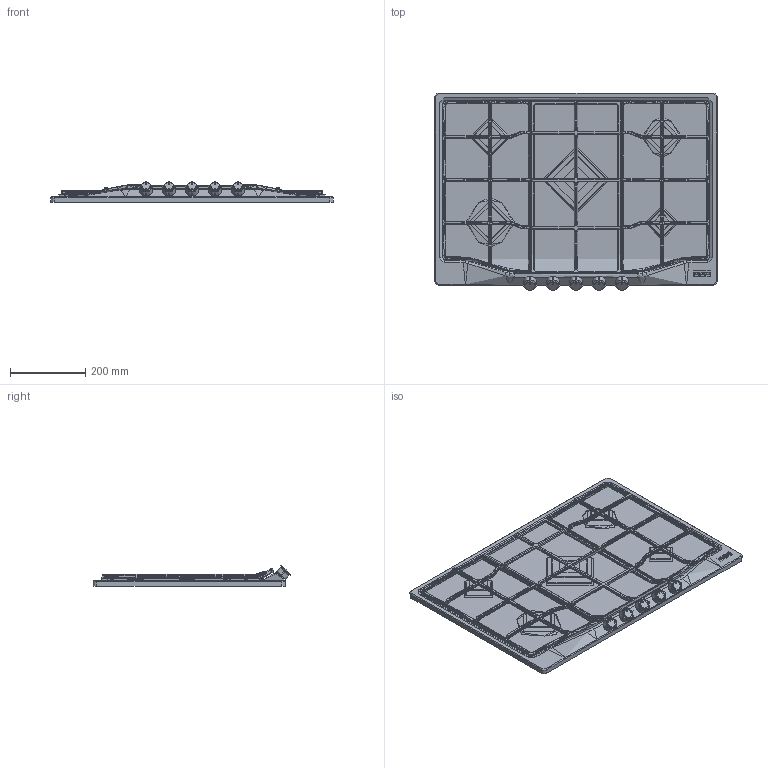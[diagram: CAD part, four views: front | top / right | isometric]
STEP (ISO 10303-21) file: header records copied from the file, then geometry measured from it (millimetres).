
FILE_DESCRIPTION(/* description */ (''),/* implementation_level */ '2;1');
FILE_NAME(/* name */ '3D001_Hobs-Gas_Country_FCH-755-4G-TC-C',/* time_stamp */ '2024-02-06T09:38:30+01:00',/* author */ (''),/* organization */ (''),/* preprocessor_version */ 'ST-DEVELOPER v19.2',/* originating_system */ 'Rhino 8.3',/* authorisation */ '');
FILE_SCHEMA (('CONFIG_CONTROL_DESIGN'));
Products named in the file (3): Document; Manopole piani FCH_F-MZA00007; Blocco 01
Bounding box: 750 x 525.24 x 54.74 mm (x, y, z)
Topology: 13 solids, 74 shells, 12816 faces, 20372 edges, 7317 vertices
Faces by surface type: plane 12410, bspline 341, cylinder 65
Full cylindrical faces by diameter (mm): 74.679 x1
Entity records: 224796 total; most frequent: CARTESIAN_POINT 65322, ORIENTED_EDGE 38336, EDGE_CURVE 19510, B_SPLINE_CURVE_WITH_KNOTS 19073, DIRECTION 12703, EDGE_LOOP 12494, ADVANCED_FACE 12484, FACE_OUTER_BOUND 12484
